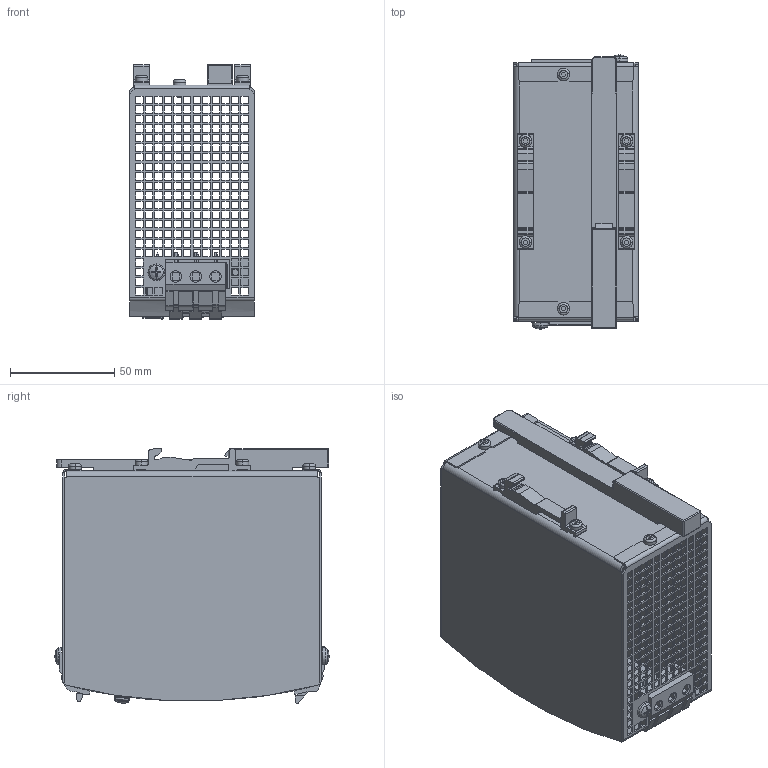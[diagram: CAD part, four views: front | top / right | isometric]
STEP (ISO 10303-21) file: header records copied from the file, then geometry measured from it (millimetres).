
FILE_DESCRIPTION((''),'2;1');
FILE_NAME('CD_PS-16','2009-12-15T',('aluksys'),(''),'PRO/ENGINEER BY PARAMETRIC TECHNOLOGY CORPORATION, 2006080','PRO/ENGINEER BY PARAMETRIC TECHNOLOGY CORPORATION, 2006080','');
FILE_SCHEMA(('CONFIG_CONTROL_DESIGN'));
Products named in the file (1): CD_PS-16
Bounding box: 60 x 131.75 x 122.41 mm (x, y, z)
Volume: 94170.1 mm3; surface area: 114461.8 mm2
Topology: 3 solids, 3 shells, 3048 faces, 8798 edges, 5815 vertices
Faces by surface type: plane 2458, cylinder 310, bspline 112, extrusion 79, torus 46, cone 27, sphere 16
Entity records: 133342 total; most frequent: CARTESIAN_POINT 52154, ORIENTED_EDGE 17576, DIRECTION 14831, EDGE_CURVE 8788, VECTOR 7423, LINE 7344, VERTEX_POINT 5815, EDGE_LOOP 4023
